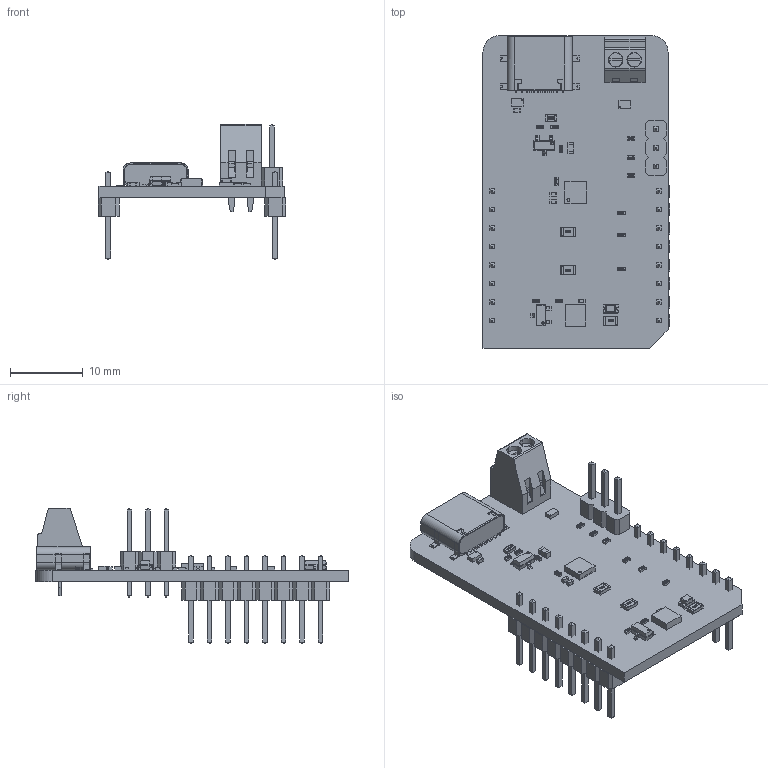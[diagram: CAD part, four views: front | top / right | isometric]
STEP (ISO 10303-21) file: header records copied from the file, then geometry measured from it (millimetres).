
FILE_DESCRIPTION(('Open CASCADE Model'),'2;1');
FILE_NAME('Open CASCADE Shape Model','2026-01-12T10:46:04',('Author'),( 'Open CASCADE'),'Open CASCADE STEP processor 6.8','Open CASCADE 6.8' ,'Unknown');
FILE_SCHEMA(('AUTOMOTIVE_DESIGN { 1 0 10303 214 1 1 1 1 }'));
Length unit declared in the file: millimetre
Products named in the file (78): PCB; Board; TB1; ScrewTerminal_2.54; R7; User_Library-R_0402; R6; R5; JP2; User_Library-R_0805; CN1; USBCSMD; Free-Models-1; 1457591312; Extruded-1; PCB-1; Free-Models; TYP-C; Part4; Part5; Part5-2; Part5-1; Part8; Part9; Part10-1; Part10; C3; User_Library-SMD_CAPACITOR0402; C2; JP1; MBD1; Header_1x8; 1240637040; User_Library-PinHeaderX5-1_PinHeaderX5_Body_1; User_Library-PinHeaderX5-1_PinHeaderX5_Pins_1; U1; 1072593528; Extruded; Q1; SOT23-3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
Assembly tree (108 placements, depth 10):
  PCB
    Board
    TB1
      ScrewTerminal_2.54
    R7
      User_Library-R_0402
    R6
      User_Library-R_0402
    R5
      User_Library-R_0402
    JP2
      User_Library-R_0805
    CN1
      USBCSMD
        PCB
          Free-Models-1
            1457591312  x12
              Extruded-1
            USBCSMD
              PCB-1
                Free-Models
                  TYP-C
    C3
      User_Library-SMD_CAPACITOR0402
    C2
      User_Library-SMD_CAPACITOR0402
    JP1
      User_Library-R_0805
    MBD1
      Header_1x8  x2
        PCB
          Free-Models
            1240637040  x2
              User_Library-PinHeaderX5-1_PinHeaderX5_Body_1
              User_Library-PinHeaderX5-1_PinHeaderX5_Pins_1
    U1
      1072593528
        Extruded
    Q1
      SOT23-3
    R4
      User_Library-R_0402
    C1
      User_Library-SMD_CAPACITOR0402
    R2
      User_Library-R_0402
    LD1
      led_0805_green
    R1
      User_Library-R_0805
    C4
      User_Library-SMD_CAPACITOR0402
    C5
      User_Library-SMD_CAPACITOR0603
    J1
      User_Library-Pin_Header_Strip_1x3
    Q2
      User_Library-SOT23-3
    R3
      User_Library-R_0402
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Bounding box: 25.78 x 42.93 x 18.62 mm (x, y, z)
Volume: 2564.8 mm3; surface area: 5299.6 mm2
Topology: 119 solids, 119 shells, 2965 faces, 7425 edges, 4790 vertices
Faces by surface type: plane 2231, bspline 483, cylinder 199, sphere 50, torus 2
Full cylindrical faces by diameter (mm): 0.6 x2
Entity records: 50514 total; most frequent: CARTESIAN_POINT 13701, ORIENTED_EDGE 6154, DIRECTION 5599, EDGE_CURVE 3077, LINE 2523, VECTOR 2523, VERTEX_POINT 1986, AXIS2_PLACEMENT_3D 1538
